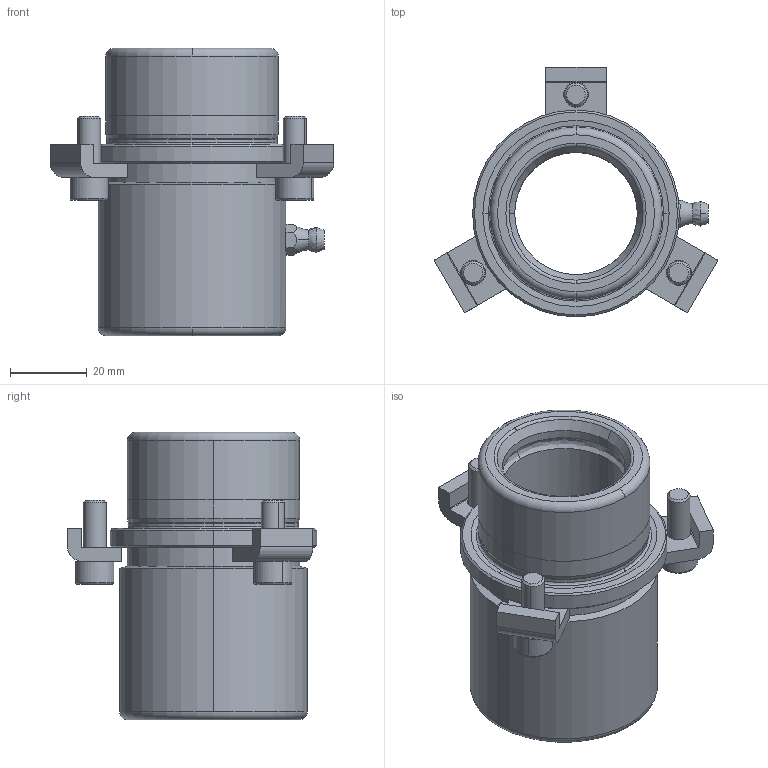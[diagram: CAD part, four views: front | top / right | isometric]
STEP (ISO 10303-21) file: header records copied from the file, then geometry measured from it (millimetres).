
FILE_DESCRIPTION((''),'2;1');
FILE_NAME('B10_032_050.stp','2008-11-06T08:46:57',(''),(''),'Mechanical Desktop 2009','Mechanical Desktop 2009',', , ');
FILE_SCHEMA(('CONFIG_CONTROL_DESIGN'));
Length unit declared in the file: millimetre
Products named in the file (2): Product; blmdl1
Assembly tree (1 placements, depth 2):
  Product
    blmdl1
Bounding box: 74.11 x 65.2 x 75 mm (x, y, z)
Volume: 78215.6 mm3; surface area: 26985.8 mm2
Topology: 8 solids, 8 shells, 170 faces, 445 edges, 292 vertices
Faces by surface type: plane 68, cylinder 48, cone 22, bspline 16, torus 16
Entity records: 6504 total; most frequent: CARTESIAN_POINT 2130, DIRECTION 939, ORIENTED_EDGE 882, EDGE_CURVE 441, AXIS2_PLACEMENT_3D 371, VERTEX_POINT 290, CIRCLE 215, VECTOR 197
